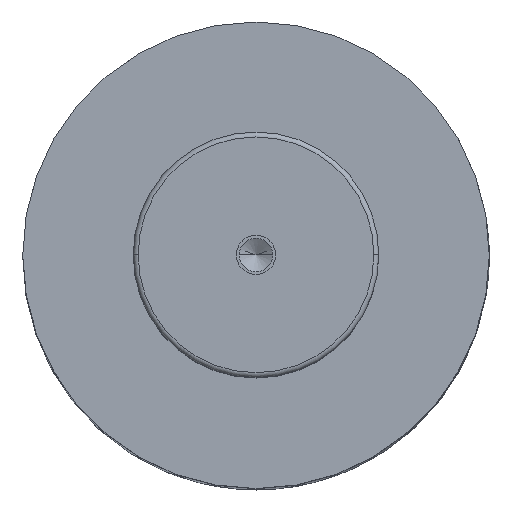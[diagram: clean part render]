
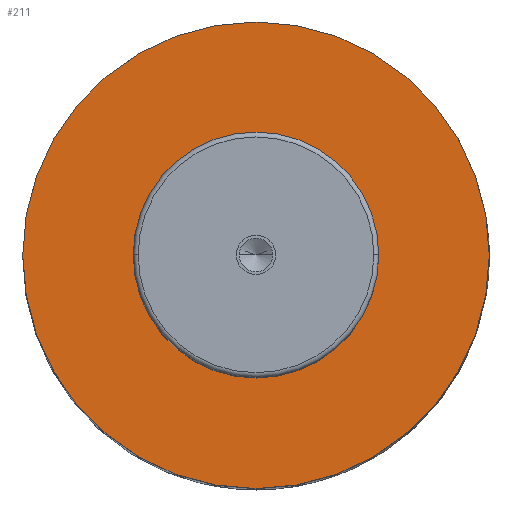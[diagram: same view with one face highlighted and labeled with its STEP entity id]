
A CAD part, top view. The second image highlights one B-rep face of the part: STEP entity #211.
In plain terms, the highlighted planar face has unit normal (0, 0, 1).
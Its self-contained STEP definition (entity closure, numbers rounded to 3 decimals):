
#109=PLANE('',#1266);
#138=FACE_BOUND('',#359,.T.);
#139=FACE_BOUND('',#360,.T.);
#211=ADVANCED_FACE('',(#138,#139),#109,.T.);
#359=EDGE_LOOP('',(#571,#572));
#360=EDGE_LOOP('',(#573,#574));
#451=CIRCLE('',#1260,25.);
#452=CIRCLE('',#1262,25.);
#453=CIRCLE('',#1264,47.5);
#454=CIRCLE('',#1265,47.5);
#571=ORIENTED_EDGE('',*,*,#970,.F.);
#572=ORIENTED_EDGE('',*,*,#971,.F.);
#573=ORIENTED_EDGE('',*,*,#969,.T.);
#574=ORIENTED_EDGE('',*,*,#967,.T.);
#856=VERTEX_POINT('',#1837);
#857=VERTEX_POINT('',#1839);
#858=VERTEX_POINT('',#1845);
#859=VERTEX_POINT('',#1846);
#967=EDGE_CURVE('',#857,#856,#451,.T.);
#969=EDGE_CURVE('',#856,#857,#452,.T.);
#970=EDGE_CURVE('',#858,#859,#453,.T.);
#971=EDGE_CURVE('',#859,#858,#454,.T.);
#1260=AXIS2_PLACEMENT_3D('',#1838,#1456,#1457);
#1262=AXIS2_PLACEMENT_3D('',#1842,#1461,#1462);
#1264=AXIS2_PLACEMENT_3D('',#1844,#1465,#1466);
#1265=AXIS2_PLACEMENT_3D('',#1847,#1467,#1468);
#1266=AXIS2_PLACEMENT_3D('',#1848,#1469,#1470);
#1456=DIRECTION('',(0.,0.,-1.));
#1457=DIRECTION('',(0.,1.,0.));
#1461=DIRECTION('',(0.,0.,-1.));
#1462=DIRECTION('',(0.,-1.,0.));
#1465=DIRECTION('',(0.,0.,-1.));
#1466=DIRECTION('',(0.,1.,0.));
#1467=DIRECTION('',(0.,0.,-1.));
#1468=DIRECTION('',(0.,-1.,0.));
#1469=DIRECTION('',(0.,0.,1.));
#1470=DIRECTION('',(0.,-1.,0.));
#1837=CARTESIAN_POINT('',(-25.,0.,167.));
#1838=CARTESIAN_POINT('',(0.,0.,167.));
#1839=CARTESIAN_POINT('',(25.,0.,167.));
#1842=CARTESIAN_POINT('',(0.,0.,167.));
#1844=CARTESIAN_POINT('',(0.,0.,167.));
#1845=CARTESIAN_POINT('',(47.5,0.,167.));
#1846=CARTESIAN_POINT('',(-47.5,0.,167.));
#1847=CARTESIAN_POINT('',(0.,0.,167.));
#1848=CARTESIAN_POINT('',(0.,0.,167.));
